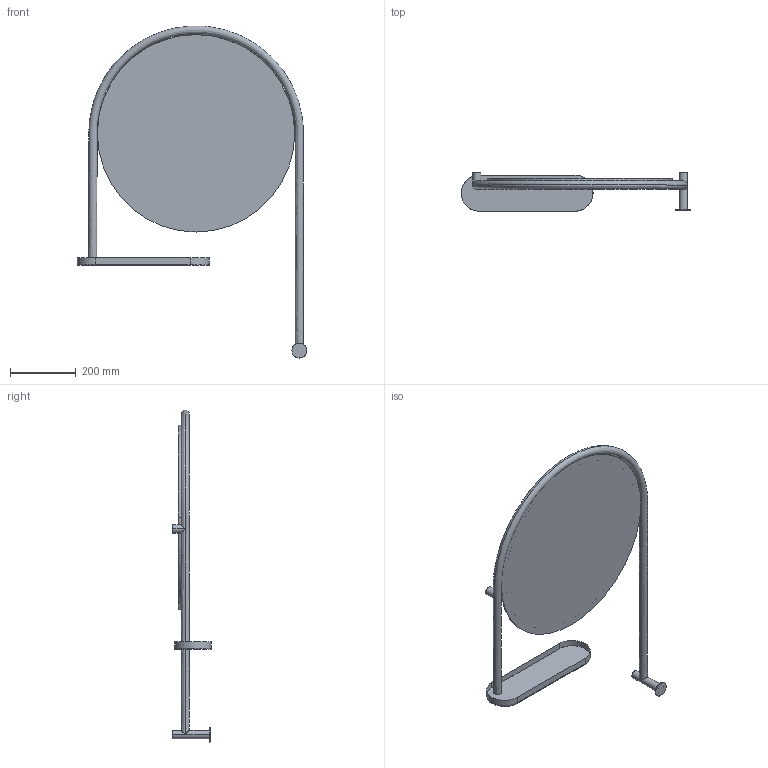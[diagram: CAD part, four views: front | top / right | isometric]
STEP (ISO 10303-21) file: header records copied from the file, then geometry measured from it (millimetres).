
FILE_DESCRIPTION(/* description */ (''),/* implementation_level */ '2;1');
FILE_NAME(/* name */ 'SPECCHIO TUBOLARE TONDO',/* time_stamp */ '2026-07-31T10:05:39+02:00',/* author */ (''),/* organization */ (''),/* preprocessor_version */ 'ST-DEVELOPER v19.2',/* originating_system */ 'Rhino 8.33',/* authorisation */ '');
FILE_SCHEMA (('CONFIG_CONTROL_DESIGN'));
Length unit declared in the file: millimetre
Products named in the file (1): Document
Bounding box: 697.59 x 116.15 x 1009.08 mm (x, y, z)
Volume: 853001.3 mm3; surface area: 889018.3 mm2
Topology: 2 solids, 11 shells, 26 faces, 63 edges, 45 vertices
Faces by surface type: cylinder 14, plane 10, bspline 2
Entity records: 2119 total; most frequent: CARTESIAN_POINT 1522, ORIENTED_EDGE 93, DIRECTION 70, EDGE_CURVE 63, AXIS2_PLACEMENT_3D 47, VERTEX_POINT 45, B_SPLINE_CURVE_WITH_KNOTS 29, ADVANCED_FACE 26
